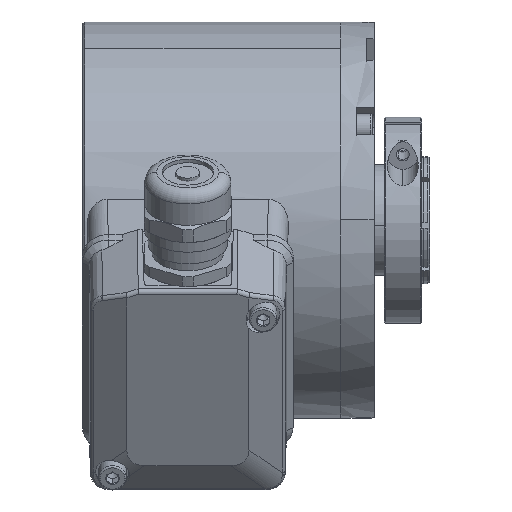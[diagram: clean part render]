
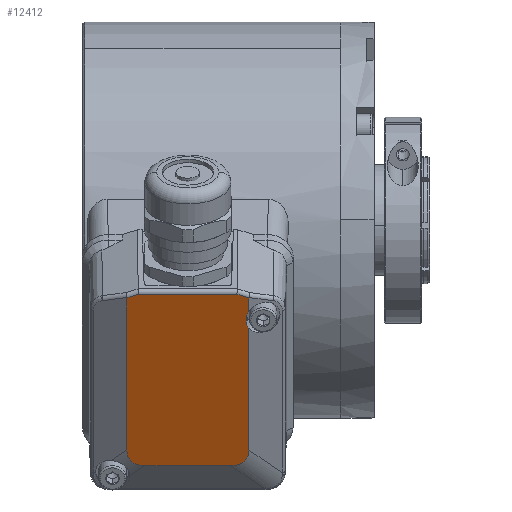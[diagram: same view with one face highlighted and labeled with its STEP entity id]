
A CAD part, top view. The second image highlights one B-rep face of the part: STEP entity #12412.
In plain terms, the highlighted planar face has unit normal (0, -0.5, 0.866).
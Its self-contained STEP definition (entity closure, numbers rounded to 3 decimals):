
#390 = VERTEX_POINT ( 'NONE', #24088 ) ;
#760 = CARTESIAN_POINT ( 'NONE',  ( -36.173, -62.037, 68.683 ) ) ;
#802 = ORIENTED_EDGE ( 'NONE', *, *, #19038, .F. ) ;
#1002 = CARTESIAN_POINT ( 'NONE',  ( -31.624, -27.37, 88.699 ) ) ;
#1533 = AXIS2_PLACEMENT_3D ( 'NONE', #25650, #13745, #1952 ) ;
#1952 = DIRECTION ( 'NONE',  ( 1., 0., 0. ) ) ;
#2537 = EDGE_CURVE ( 'NONE', #10792, #10802, #2782, .T. ) ;
#2782 = LINE ( 'NONE', #15882, #17272 ) ;
#3523 = ORIENTED_EDGE ( 'NONE', *, *, #17876, .F. ) ;
#3594 = ORIENTED_EDGE ( 'NONE', *, *, #23268, .T. ) ;
#3651 = VECTOR ( 'NONE', #25375, 1000. ) ;
#3873 = EDGE_CURVE ( 'NONE', #25031, #4797, #21893, .T. ) ;
#4627 = FACE_OUTER_BOUND ( 'NONE', #19546, .T. ) ;
#4797 = VERTEX_POINT ( 'NONE', #760 ) ;
#5040 = EDGE_CURVE ( 'NONE', #8709, #24811, #10886, .T. ) ;
#5580 = DIRECTION ( 'NONE',  ( -0.94, 0.296, 0.171 ) ) ;
#5632 = AXIS2_PLACEMENT_3D ( 'NONE', #20121, #18096, #21559 ) ;
#6448 = CARTESIAN_POINT ( 'NONE',  ( -36.173, -62.037, 68.683 ) ) ;
#8103 = CARTESIAN_POINT ( 'NONE',  ( -31.624, -79.891, 58.375 ) ) ;
#8163 = CARTESIAN_POINT ( 'NONE',  ( -62.392, -79.891, 58.375 ) ) ;
#8306 = CIRCLE ( 'NONE', #8560, 4.315 ) ;
#8449 = DIRECTION ( 'NONE',  ( 0., -0.5, 0.866 ) ) ;
#8560 = AXIS2_PLACEMENT_3D ( 'NONE', #20332, #8449, #22340 ) ;
#8579 = PLANE ( 'NONE',  #5632 ) ;
#8580 = ORIENTED_EDGE ( 'NONE', *, *, #5040, .T. ) ;
#8709 = VERTEX_POINT ( 'NONE', #23981 ) ;
#9411 = CARTESIAN_POINT ( 'NONE',  ( -57.843, -62.037, 68.683 ) ) ;
#10093 = VERTEX_POINT ( 'NONE', #16151 ) ;
#10286 = DIRECTION ( 'NONE',  ( 0., 0.866, 0.5 ) ) ;
#10420 = CIRCLE ( 'NONE', #1533, 4.315 ) ;
#10438 = CARTESIAN_POINT ( 'NONE',  ( -31.624, -58.097, 70.958 ) ) ;
#10489 = VERTEX_POINT ( 'NONE', #24550 ) ;
#10792 = VERTEX_POINT ( 'NONE', #19582 ) ;
#10802 = VERTEX_POINT ( 'NONE', #23902 ) ;
#10886 = LINE ( 'NONE', #8103, #20799 ) ;
#10954 = LINE ( 'NONE', #19405, #15551 ) ;
#11404 = CARTESIAN_POINT ( 'NONE',  ( -60.845, -62.037, 68.683 ) ) ;
#11821 = CARTESIAN_POINT ( 'NONE',  ( -87.008, -62.037, 68.683 ) ) ;
#11902 = EDGE_CURVE ( 'NONE', #14962, #10802, #15440, .T. ) ;
#11962 = DIRECTION ( 'NONE',  ( -0.94, -0.296, -0.171 ) ) ;
#11967 = VECTOR ( 'NONE', #19760, 1000. ) ;
#12102 = VERTEX_POINT ( 'NONE', #15253 ) ;
#12412 = ADVANCED_FACE ( 'NONE', ( #4627 ), #8579, .F. ) ;
#12602 = ORIENTED_EDGE ( 'NONE', *, *, #16481, .T. ) ;
#12918 = VECTOR ( 'NONE', #19525, 1000. ) ;
#13060 = DIRECTION ( 'NONE',  ( 0., 0.866, 0.5 ) ) ;
#13267 = EDGE_CURVE ( 'NONE', #14962, #25031, #19589, .T. ) ;
#13389 = CARTESIAN_POINT ( 'NONE',  ( -62.392, -58.097, 70.958 ) ) ;
#13470 = CARTESIAN_POINT ( 'NONE',  ( -31.624, -79.891, 58.375 ) ) ;
#13522 = LINE ( 'NONE', #17523, #12918 ) ;
#13745 = DIRECTION ( 'NONE',  ( 0., -0.5, 0.866 ) ) ;
#13755 = CARTESIAN_POINT ( 'NONE',  ( -62.392, -58.097, 70.958 ) ) ;
#14141 = LINE ( 'NONE', #13470, #3651 ) ;
#14962 = VERTEX_POINT ( 'NONE', #13755 ) ;
#15253 = CARTESIAN_POINT ( 'NONE',  ( -31.624, -23.293, 91.052 ) ) ;
#15440 = LINE ( 'NONE', #8163, #20749 ) ;
#15514 = CARTESIAN_POINT ( 'NONE',  ( -57.843, -62.037, 68.683 ) ) ;
#15551 = VECTOR ( 'NONE', #5580, 1000. ) ;
#15882 = CARTESIAN_POINT ( 'NONE',  ( -62.056, -19.685, 93.135 ) ) ;
#16151 = CARTESIAN_POINT ( 'NONE',  ( -31.624, -19.791, 93.074 ) ) ;
#16481 = EDGE_CURVE ( 'NONE', #10093, #10489, #10954, .T. ) ;
#17272 = VECTOR ( 'NONE', #11962, 1000. ) ;
#17348 = ORIENTED_EDGE ( 'NONE', *, *, #23213, .T. ) ;
#17523 = CARTESIAN_POINT ( 'NONE',  ( -59.555, -18.842, 93.622 ) ) ;
#17811 = ORIENTED_EDGE ( 'NONE', *, *, #2537, .T. ) ;
#17876 = EDGE_CURVE ( 'NONE', #390, #24811, #8306, .T. ) ;
#18096 = DIRECTION ( 'NONE',  ( 0., 0.5, -0.866 ) ) ;
#18290 = ORIENTED_EDGE ( 'NONE', *, *, #11902, .F. ) ;
#18840 = ORIENTED_EDGE ( 'NONE', *, *, #3873, .T. ) ;
#19038 = EDGE_CURVE ( 'NONE', #12102, #390, #10420, .T. ) ;
#19405 = CARTESIAN_POINT ( 'NONE',  ( -34.797, -18.79, 93.652 ) ) ;
#19525 = DIRECTION ( 'NONE',  ( -1., 0., 0. ) ) ;
#19546 = EDGE_LOOP ( 'NONE', ( #3594, #17811, #18290, #21631, #18840, #20370, #8580, #3523, #802, #17348, #12602 ) ) ;
#19582 = CARTESIAN_POINT ( 'NONE',  ( -59.382, -18.842, 93.622 ) ) ;
#19589 =( BOUNDED_CURVE ( )  B_SPLINE_CURVE ( 3, ( #13389, #25286, #11404, #9411 ),
 .UNSPECIFIED., .F., .F. ) 
 B_SPLINE_CURVE_WITH_KNOTS ( ( 4, 4 ),
 ( 2.897, 3.386 ),
 .UNSPECIFIED. ) 
 CURVE ( )  GEOMETRIC_REPRESENTATION_ITEM ( )  RATIONAL_B_SPLINE_CURVE ( ( 1., 0.98, 0.98, 1. ) ) 
 REPRESENTATION_ITEM ( '' )  );
#19760 = DIRECTION ( 'NONE',  ( 1., 0., 0. ) ) ;
#20121 = CARTESIAN_POINT ( 'NONE',  ( -72.008, -70.365, 63.875 ) ) ;
#20295 = CARTESIAN_POINT ( 'NONE',  ( -33.171, -62.037, 68.683 ) ) ;
#20332 = CARTESIAN_POINT ( 'NONE',  ( -28.008, -25.331, 89.875 ) ) ;
#20370 = ORIENTED_EDGE ( 'NONE', *, *, #25204, .T. ) ;
#20749 = VECTOR ( 'NONE', #13060, 1000. ) ;
#20799 = VECTOR ( 'NONE', #10286, 1000. ) ;
#21559 = DIRECTION ( 'NONE',  ( 1., 0., 0. ) ) ;
#21631 = ORIENTED_EDGE ( 'NONE', *, *, #13267, .T. ) ;
#21893 = LINE ( 'NONE', #11821, #11967 ) ;
#22301 = CARTESIAN_POINT ( 'NONE',  ( -31.624, -60.697, 69.457 ) ) ;
#22340 = DIRECTION ( 'NONE',  ( 1., 0., 0. ) ) ;
#23213 = EDGE_CURVE ( 'NONE', #12102, #10093, #14141, .T. ) ;
#23268 = EDGE_CURVE ( 'NONE', #10489, #10792, #13522, .T. ) ;
#23566 =( BOUNDED_CURVE ( )  B_SPLINE_CURVE ( 3, ( #6448, #20295, #22301, #10438 ),
 .UNSPECIFIED., .F., .F. ) 
 B_SPLINE_CURVE_WITH_KNOTS ( ( 4, 4 ),
 ( 6.039, 6.527 ),
 .UNSPECIFIED. ) 
 CURVE ( )  GEOMETRIC_REPRESENTATION_ITEM ( )  RATIONAL_B_SPLINE_CURVE ( ( 1., 0.98, 0.98, 1. ) ) 
 REPRESENTATION_ITEM ( '' )  );
#23902 = CARTESIAN_POINT ( 'NONE',  ( -62.392, -19.791, 93.074 ) ) ;
#23981 = CARTESIAN_POINT ( 'NONE',  ( -31.624, -58.097, 70.958 ) ) ;
#24088 = CARTESIAN_POINT ( 'NONE',  ( -32.323, -25.331, 89.875 ) ) ;
#24550 = CARTESIAN_POINT ( 'NONE',  ( -34.634, -18.842, 93.622 ) ) ;
#24811 = VERTEX_POINT ( 'NONE', #1002 ) ;
#25031 = VERTEX_POINT ( 'NONE', #15514 ) ;
#25204 = EDGE_CURVE ( 'NONE', #4797, #8709, #23566, .T. ) ;
#25286 = CARTESIAN_POINT ( 'NONE',  ( -62.392, -60.697, 69.457 ) ) ;
#25375 = DIRECTION ( 'NONE',  ( 0., 0.866, 0.5 ) ) ;
#25650 = CARTESIAN_POINT ( 'NONE',  ( -28.008, -25.331, 89.875 ) ) ;
